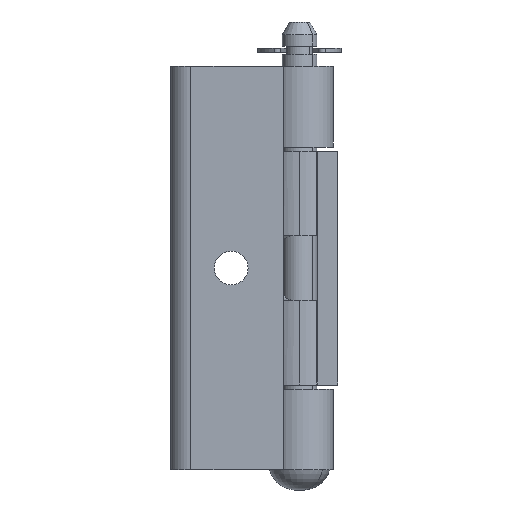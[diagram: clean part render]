
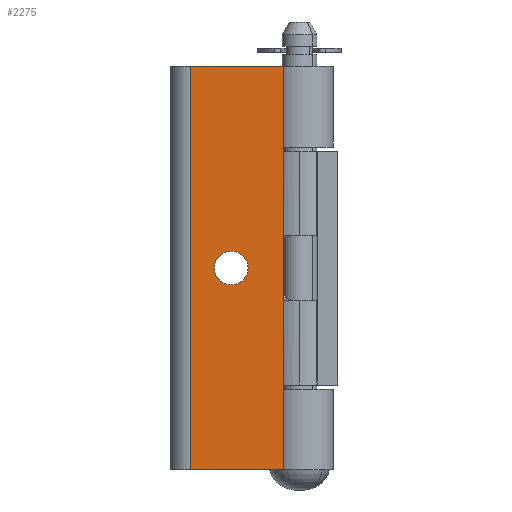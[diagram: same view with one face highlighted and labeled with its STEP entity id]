
A CAD part, front view. The second image highlights one B-rep face of the part: STEP entity #2275.
In plain terms, the highlighted planar face has unit normal (0, -1, 0).
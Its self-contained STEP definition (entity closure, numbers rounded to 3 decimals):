
#11 = VERTEX_POINT ( 'NONE', #3142 ) ;
#12 = EDGE_CURVE ( 'NONE', #15, #11, #3141, .T. ) ;
#15 = VERTEX_POINT ( 'NONE', #3132 ) ;
#51 = DIRECTION ( 'NONE',  ( -1., 0., 0. ) ) ;
#52 = VECTOR ( 'NONE', #51, 1000. ) ;
#53 = CARTESIAN_POINT ( 'NONE',  ( 0., 0., 50. ) ) ;
#54 = LINE ( 'NONE', #53, #52 ) ;
#55 = CARTESIAN_POINT ( 'NONE',  ( 0., 0., 50. ) ) ;
#56 = DIRECTION ( 'NONE',  ( 0., 0., -1. ) ) ;
#57 = VECTOR ( 'NONE', #56, 1000. ) ;
#58 = CARTESIAN_POINT ( 'NONE',  ( 0., 0., 50. ) ) ;
#59 = LINE ( 'NONE', #58, #57 ) ;
#60 = DIRECTION ( 'NONE',  ( 1., 0., 0. ) ) ;
#61 = DIRECTION ( 'NONE',  ( 0., -1., 0. ) ) ;
#62 = CARTESIAN_POINT ( 'NONE',  ( -6.5, 0., 25. ) ) ;
#63 = AXIS2_PLACEMENT_3D ( 'NONE', #62, #61, #60 ) ;
#64 = CIRCLE ( 'NONE', #63, 2.1 ) ;
#94 = DIRECTION ( 'NONE',  ( 1., 0., 0. ) ) ;
#95 = DIRECTION ( 'NONE',  ( 0., -1., 0. ) ) ;
#96 = CARTESIAN_POINT ( 'NONE',  ( 0., 0., 50. ) ) ;
#97 = AXIS2_PLACEMENT_3D ( 'NONE', #96, #95, #94 ) ;
#98 = PLANE ( 'NONE',  #97 ) ;
#99 = FACE_OUTER_BOUND ( 'NONE', #2255, .T. ) ;
#100 = FACE_BOUND ( 'NONE', #2276, .T. ) ;
#101 = DIRECTION ( 'NONE',  ( 0., 0., -1. ) ) ;
#102 = VECTOR ( 'NONE', #101, 1000. ) ;
#103 = CARTESIAN_POINT ( 'NONE',  ( -11.5, 0., 50. ) ) ;
#108 = LINE ( 'NONE', #103, #102 ) ;
#2056 = VERTEX_POINT ( 'NONE', #3302 ) ;
#2215 = EDGE_CURVE ( 'NONE', #2216, #2231, #3591, .T. ) ;
#2216 = VERTEX_POINT ( 'NONE', #3587 ) ;
#2231 = VERTEX_POINT ( 'NONE', #3625 ) ;
#2252 = ORIENTED_EDGE ( 'NONE', *, *, #2253, .F. ) ;
#2253 = EDGE_CURVE ( 'NONE', #11, #15, #64, .T. ) ;
#2254 = ORIENTED_EDGE ( 'NONE', *, *, #12, .F. ) ;
#2255 = EDGE_LOOP ( 'NONE', ( #2256, #2257, #2260, #2262 ) ) ;
#2256 = ORIENTED_EDGE ( 'NONE', *, *, #2215, .F. ) ;
#2257 = ORIENTED_EDGE ( 'NONE', *, *, #2258, .F. ) ;
#2258 = EDGE_CURVE ( 'NONE', #2259, #2216, #59, .T. ) ;
#2259 = VERTEX_POINT ( 'NONE', #55 ) ;
#2260 = ORIENTED_EDGE ( 'NONE', *, *, #2261, .T. ) ;
#2261 = EDGE_CURVE ( 'NONE', #2259, #2056, #54, .T. ) ;
#2262 = ORIENTED_EDGE ( 'NONE', *, *, #2272, .T. ) ;
#2272 = EDGE_CURVE ( 'NONE', #2056, #2231, #108, .T. ) ;
#2275 = ADVANCED_FACE ( 'NONE', ( #100, #99 ), #98, .T. ) ;
#2276 = EDGE_LOOP ( 'NONE', ( #2252, #2254 ) ) ;
#3132 = CARTESIAN_POINT ( 'NONE',  ( -8.6, 0., 25. ) ) ;
#3137 = DIRECTION ( 'NONE',  ( 1., 0., 0. ) ) ;
#3138 = DIRECTION ( 'NONE',  ( 0., -1., 0. ) ) ;
#3139 = CARTESIAN_POINT ( 'NONE',  ( -6.5, 0., 25. ) ) ;
#3140 = AXIS2_PLACEMENT_3D ( 'NONE', #3139, #3138, #3137 ) ;
#3141 = CIRCLE ( 'NONE', #3140, 2.1 ) ;
#3142 = CARTESIAN_POINT ( 'NONE',  ( -4.4, 0., 25. ) ) ;
#3302 = CARTESIAN_POINT ( 'NONE',  ( -11.5, 0., 50. ) ) ;
#3587 = CARTESIAN_POINT ( 'NONE',  ( 0., 0., 0. ) ) ;
#3588 = DIRECTION ( 'NONE',  ( -1., 0., 0. ) ) ;
#3589 = VECTOR ( 'NONE', #3588, 1000. ) ;
#3590 = CARTESIAN_POINT ( 'NONE',  ( 0., 0., 0. ) ) ;
#3591 = LINE ( 'NONE', #3590, #3589 ) ;
#3625 = CARTESIAN_POINT ( 'NONE',  ( -11.5, 0., 0. ) ) ;
